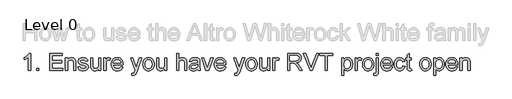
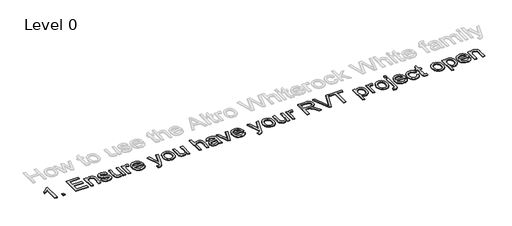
# One storey, part 3 of 6: 1 proxy.
"""IFC4 building model written with IfcOpenShell, lengths in millimetres."""

from ifc_helpers import new_model, si_unit, origin, origin_with_axes, place, context, project, spatial, polyline, outline, extrude, element, save

model = new_model("IFC4")

# Units and contexts
model_context = context("Model", 3, world=origin())
ifc_project = project(units=[si_unit("LENGTHUNIT", "METRE", prefix="MILLI")], contexts=[model_context])

# Site, building, storey
site = spatial("IfcSite", under=ifc_project)
building = spatial("IfcBuilding", under=site)
storey = spatial("IfcBuildingStorey", under=building, Name="Level 0", Elevation=0.0)

# Proxy
placement = place(None, origin())
element("IfcBuildingElementProxy", 1, Name="300mm Arial", ObjectType="300mm Arial", at=placement, inside=storey, context=model_context, shape_type="SweptSolid", body=[
    extrude(outline(polyline([(-63253.9284582, 84850.3631162), (-63339.6254279, 84850.3631162), (-63339.6254279, 85384.6301617), (-63375.4022389, 85355.6948811), (-63420.8032214, 85326.8014448), (-63468.463792, 85301.5484559), (-63511.0193673, 85283.5345177), (-63511.0193673, 85364.5449344), (-63443.7129338, 85401.1586299), (-63385.4030084, 85444.7184666), (-63339.4371289, 85491.040022), (-63309.1628332, 85535.9388738), (-63253.9284582, 85535.9388738), (-63253.9284582, 84850.3631162)])), origin_with_axes(), (0.0, 0.0, 1.0), 25.0),
    extrude(outline(polyline([(-63007.5496703, 84850.3631162), (-63007.5496703, 84936.0600859), (-62921.8527006, 84936.0600859), (-62921.8527006, 84850.3631162), (-63007.5496703, 84850.3631162)])), origin_with_axes(), (0.0, 0.0, 1.0), 25.0),
    extrude(outline(polyline([(-62482.6557309, 84850.3631162), (-62482.6557309, 85535.9388738), (-61989.8981551, 85535.9388738), (-61989.8981551, 85450.2419041), (-62396.9587612, 85450.2419041), (-62396.9587612, 85246.7116011), (-62011.3223976, 85246.7116011), (-62011.3223976, 85161.0146314), (-62396.9587612, 85161.0146314), (-62396.9587612, 84936.0600859), (-61979.1860339, 84936.0600859), (-61979.1860339, 84850.3631162), (-62482.6557309, 84850.3631162)])), origin_with_axes(), (0.0, 0.0, 1.0), 25.0),
    extrude(outline(polyline([(-61861.3527006, 84850.3631162), (-61861.3527006, 85353.8328132), (-61775.6557309, 85353.8328132), (-61775.6557309, 85283.5345177), (-61745.8835659, 85318.976575), (-61710.1276769, 85344.2923302), (-61668.388064, 85359.4817833), (-61620.6647271, 85364.5449344), (-61578.4229835, 85360.4651226), (-61539.7379989, 85348.2256872), (-61507.4761026, 85329.3539424), (-61484.5036239, 85305.3772024), (-61468.9166506, 85276.3582334), (-61458.8112707, 85242.3598018), (-61455.4218886, 85209.8468402), (-61454.2920945, 85159.5082393), (-61454.2920945, 84850.3631162), (-61539.9890642, 84850.3631162), (-61539.9890642, 85147.9592336), (-61542.4578734, 85192.2722663), (-61549.864301, 85223.7809666), (-61563.5264399, 85246.3559252), (-61584.7623834, 85263.8677327), (-61611.9820507, 85275.1029067), (-61643.5953616, 85278.8479647), (-61669.6172381, 85276.7452925), (-61693.7875076, 85270.4372758), (-61716.1061703, 85259.9239146), (-61736.5732262, 85245.205209), (-61753.671822, 85224.60739), (-61765.8851047, 85196.4566887), (-61773.2130743, 85160.753105), (-61775.6557309, 85117.4966389), (-61775.6557309, 84850.3631162), (-61861.3527006, 84850.3631162)])), origin_with_axes(), (0.0, 0.0, 1.0), 25.0),
    extrude(outline(polyline([(-61368.5951248, 85000.3328132), (-61282.8981551, 85011.0449344), (-61277.7199325, 84991.503682), (-61269.3824709, 84974.3893946), (-61257.8857705, 84959.7020722), (-61243.2298313, 84947.4417147), (-61225.3728089, 84937.7756991), (-61204.2728592, 84930.8714022), (-61152.3441779, 84925.3479647), (-61101.0431599, 84930.4111157), (-61081.1043874, 84936.7400545), (-61064.9734392, 84945.6005689), (-61043.6328852, 84967.6106304), (-61038.2977468, 84979.9337542), (-61036.5193673, 84993.1356067), (-61038.3082078, 85004.7055345), (-61043.6747295, 85014.9782914), (-61052.6189322, 85023.9538773), (-61065.1408161, 85031.6322923), (-61097.2353355, 85042.5117904), (-61153.3484392, 85056.0693189), (-61231.5552929, 85078.6861217), (-61282.3960245, 85097.9972308), (-61315.0554409, 85119.0657973), (-61338.7183493, 85146.9549723), (-61353.09184, 85179.8863762), (-61357.8830036, 85216.0816295), (-61354.0333351, 85249.2850208), (-61342.4843294, 85279.9359145), (-61324.2820922, 85306.8208281), (-61300.472729, 85328.7262791), (-61276.8098206, 85342.5139507), (-61245.99155, 85354.0838785), (-61210.3611937, 85361.9296704), (-61172.2620282, 85364.5449344), (-61116.4836783, 85360.3395899), (-61067.9862233, 85347.7235565), (-61028.987407, 85327.9312388), (-61001.7049733, 85302.1970414), (-60983.6282688, 85268.617052), (-60972.24664, 85225.2873586), (-61057.9436097, 85214.5752374), (-61068.7603414, 85241.5438395), (-61090.1636618, 85261.85921), (-61122.3627917, 85274.600776), (-61165.5669525, 85278.8479647), (-61214.7757593, 85274.789075), (-61233.2290619, 85269.7154629), (-61247.5816305, 85262.612406), (-61266.0349331, 85245.0378321), (-61272.1860339, 85224.7852279), (-61269.6335363, 85211.6042976), (-61261.9760434, 85199.8460708), (-61248.8788014, 85189.3431707), (-61230.0070566, 85180.9324817), (-61156.1938464, 85162.6884003), (-61080.476724, 85140.3017407), (-61030.4101106, 85122.3505689), (-60997.1857972, 85103.0603818), (-60971.9955746, 85076.6566768), (-60956.1156918, 85043.0557654), (-60950.8223976, 85002.173959), (-60957.0362647, 84959.9112933), (-60975.6778663, 84920.159281), (-60989.4812295, 84902.0041185), (-61006.0358504, 84886.0353167), (-61025.3417291, 84872.2528756), (-61047.3988654, 84860.6567952), (-61097.3608682, 84844.902445), (-61153.5158161, 84839.650995), (-61199.6386115, 84842.1825705), (-61239.9241376, 84849.7772971), (-61274.3723946, 84862.4351747), (-61302.9833824, 84880.1562033), (-61326.3533812, 84902.8566946), (-61345.0786712, 84930.45296), (-61359.1592524, 84962.9449995), (-61368.5951248, 85000.3328132)])), origin_with_axes(), (0.0, 0.0, 1.0), 25.0),
    extrude(outline(polyline([(-60533.0496703, 84850.3631162), (-60533.0496703, 84936.8969704), (-60564.0562399, 84894.3518561), (-60600.1678048, 84863.9624888), (-60620.1379604, 84853.3262103), (-60641.3843649, 84845.7288685), (-60663.9070182, 84841.1704634), (-60687.7059203, 84839.650995), (-60729.4455332, 84843.9191058), (-60768.2978947, 84856.7234382), (-60800.8945448, 84875.971781), (-60823.8670235, 84899.571923), (-60839.3284641, 84928.2352161), (-60849.3919998, 84962.673012), (-60853.1579799, 84995.1441295), (-60854.4133066, 85042.3444136), (-60854.4133066, 85353.8328132), (-60768.716337, 85353.8328132), (-60768.716337, 85082.682245), (-60767.419166, 85028.4521314), (-60763.5276532, 84995.3115064), (-60751.0371525, 84966.1670047), (-60729.6338322, 84944.0104884), (-60700.7403959, 84930.0135956), (-60665.7795472, 84925.3479647), (-60628.8101757, 84930.1182062), (-60594.225925, 84944.4289306), (-60565.7090867, 84966.9620449), (-60546.9419525, 84996.3994562), (-60536.5227408, 85036.7163655), (-60533.0496703, 85091.8879742), (-60533.0496703, 85353.8328132), (-60447.3527006, 85353.8328132), (-60447.3527006, 84850.3631162), (-60533.0496703, 84850.3631162)])), origin_with_axes(), (0.0, 0.0, 1.0), 25.0),
    extrude(outline(polyline([(-60329.5193673, 84850.3631162), (-60329.5193673, 85353.8328132), (-60254.5345188, 85353.8328132), (-60254.5345188, 85279.3500954), (-60226.8336428, 85322.533334), (-60201.3086665, 85347.9746219), (-60175.7000017, 85360.4023563), (-60147.7480604, 85364.5449344), (-60126.4911949, 85362.8920876), (-60105.0669525, 85357.9335471), (-60061.716337, 85338.0993851), (-60090.3377858, 85261.2733908), (-60120.4656267, 85274.4543212), (-60150.5934676, 85278.8479647), (-60176.1812103, 85274.6216981), (-60199.0490784, 85261.9428984), (-60217.5233031, 85241.7739827), (-60229.9301154, 85215.0773681), (-60240.349327, 85167.2075764), (-60243.8223976, 85114.9859855), (-60243.8223976, 84850.3631162), (-60329.5193673, 84850.3631162)])), origin_with_axes(), (0.0, 0.0, 1.0), 25.0),
    extrude(outline(polyline([(-59655.6599923, 85000.3328132), (-59571.6367915, 84989.620692), (-59584.5195818, 84955.9674752), (-59601.9110872, 84926.3103818), (-59623.8113077, 84900.6494118), (-59650.2202432, 84878.9845651), (-59680.8659064, 84861.7761282), (-59715.4763097, 84849.4843875), (-59754.0514533, 84842.1093431), (-59796.591337, 84839.650995), (-59849.7648839, 84843.8929532), (-59897.143006, 84856.6188276), (-59938.7257031, 84877.8286184), (-59974.5129752, 84907.5223255), (-60003.2913399, 84944.8735255), (-60023.8473147, 84989.0557949), (-60036.1808996, 85040.0691339), (-60040.2920945, 85097.9135423), (-60036.1390553, 85157.7193988), (-60023.6799378, 85210.4326593), (-60002.9147419, 85256.0533239), (-59973.8434676, 85294.5813927), (-59938.150345, 85325.1904422), (-59897.519604, 85347.054049), (-59851.9512446, 85360.172213), (-59801.4452669, 85364.5449344), (-59752.5659833, 85360.1826741), (-59708.3627917, 85347.0958932), (-59668.8356921, 85325.2845917), (-59633.9846845, 85294.7487696), (-59605.535843, 85256.3043893), (-59585.215242, 85210.7674131), (-59573.0228814, 85158.137841), (-59568.9587612, 85098.415673), (-59569.4608919, 85075.3176617), (-59954.5951248, 85075.3176617), (-59949.6313538, 85041.12047), (-59939.7613476, 85011.1704671), (-59924.9851062, 84985.4676528), (-59905.3026296, 84964.0120272), (-59881.8018675, 84947.0964998), (-59855.57077, 84935.0139803), (-59826.6093368, 84927.7644686), (-59794.917568, 84925.3479647), (-59749.3073644, 84929.8252966), (-59710.8943673, 84943.2572923), (-59694.3868211, 84953.5405103), (-59679.6785765, 84966.4808364), (-59655.6599923, 85000.3328132)]), holes=[polyline([(-59954.5951248, 85161.0146314), (-59654.6557309, 85161.0146314), (-59659.0598354, 85185.2633589), (-59666.2465808, 85206.2900812), (-59676.215967, 85224.0947983), (-59688.9679941, 85238.6775101), (-59712.337993, 85256.252084), (-59738.929997, 85268.8053511), (-59768.7440062, 85276.3373113), (-59801.7800207, 85278.8479647), (-59831.9130921, 85276.8446725), (-59859.5459712, 85270.8347959), (-59884.6786579, 85260.8183349), (-59907.3111523, 85246.7952895), (-59926.3031992, 85229.4142452), (-59940.5145436, 85209.3237874), (-59949.9451855, 85186.5239161), (-59954.5951248, 85161.0146314)])]), origin_with_axes(), (0.0, 0.0, 1.0), 25.0),
    extrude(outline(polyline([(-59215.4587612, 84657.5449344), (-59226.1708824, 84740.0617431), (-59182.65289, 84732.5297829), (-59159.7640997, 84734.8939815), (-59141.9803048, 84741.9865774), (-59128.1298668, 84753.3054398), (-59117.0411476, 84768.3484382), (-59093.6083824, 84831.4495272), (-59086.9133066, 84852.204262), (-59269.0193673, 85353.8328132), (-59178.6358445, 85353.8328132), (-59082.0593767, 85074.3134003), (-59048.416621, 84962.5056351), (-59014.7738654, 85061.2580026), (-58915.5193673, 85353.8328132), (-58825.8053521, 85353.8328132), (-59001.0489601, 84838.3119798), (-59027.0760671, 84769.7711418), (-59046.5754752, 84726.5042147), (-59069.8827077, 84690.8110921), (-59096.2864127, 84666.081156), (-59126.9582285, 84651.6448989), (-59163.0697934, 84646.8328132), (-59187.8834179, 84649.5108435), (-59215.4587612, 84657.5449344)])), origin_with_axes(), (0.0, 0.0, 1.0), 25.0),
    extrude(outline(polyline([(-58776.2617915, 85102.0979647), (-58771.6275437, 85167.3017259), (-58757.7248005, 85223.488057), (-58734.5535617, 85270.6569579), (-58719.4922565, 85290.8598721), (-58702.1138275, 85308.8084287), (-58669.4544111, 85333.1931499), (-58633.4056125, 85350.610808), (-58593.9674319, 85361.0614028), (-58551.1398691, 85364.5449344), (-58503.8611271, 85360.3029762), (-58461.1120223, 85347.5771018), (-58422.8925547, 85326.367311), (-58389.2027243, 85296.6736039), (-58361.7058389, 85259.5002419), (-58342.0652065, 85215.8514862), (-58330.2808271, 85165.727337), (-58326.3527006, 85109.1277942), (-58328.0892359, 85063.2560642), (-58333.2988417, 85022.5520958), (-58341.9815181, 84987.0158891), (-58354.137265, 84956.6474439), (-58369.6143971, 84930.4163463), (-58388.2612292, 84907.2921823), (-58410.0777613, 84887.2749518), (-58435.0639932, 84870.364655), (-58462.2470469, 84856.9274288), (-58490.6540441, 84847.32941), (-58520.2849849, 84841.5705987), (-58551.1398691, 84839.650995), (-58599.1090408, 84843.8772616), (-58642.2556658, 84856.5560613), (-58680.579744, 84877.6873941), (-58714.0812754, 84907.2712601), (-58741.2852512, 84944.8055286), (-58760.7166625, 84989.7880689), (-58772.3755092, 85042.2188809), (-58776.2617915, 85102.0979647)]), holes=[polyline([(-58690.5648218, 85102.2653416), (-58688.0855516, 85060.6983361), (-58680.6477408, 85024.7070734), (-58668.2513896, 84994.2915534), (-58650.8964979, 84969.4517762), (-58629.7860872, 84950.1563587), (-58606.1231788, 84936.3739176), (-58579.9077728, 84928.1044529), (-58551.1398691, 84925.3479647), (-58522.5184203, 84928.1201445), (-58496.4076248, 84936.4366839), (-58472.8074828, 84950.2975829), (-58451.7179941, 84969.7028416), (-58434.3631025, 84994.7884536), (-58421.9667512, 85025.6904126), (-58414.5289405, 85062.4087187), (-58412.0496703, 85104.9433719), (-58414.5446321, 85145.1922844), (-58422.0295176, 85180.242052), (-58434.5043267, 85210.092675), (-58451.9690595, 85234.7441531), (-58473.137006, 85254.0395707), (-58496.7214565, 85267.8220118), (-58522.7224109, 85276.0914765), (-58551.1398691, 85278.8479647), (-58579.9077728, 85276.1019375), (-58606.1231788, 85267.863856), (-58629.7860872, 85254.1337202), (-58650.8964979, 85234.91153), (-58668.2513896, 85210.1449803), (-58680.6477408, 85179.7817656), (-58688.0855516, 85143.821886), (-58690.5648218, 85102.2653416)])]), origin_with_axes(), (0.0, 0.0, 1.0), 25.0),
    extrude(outline(polyline([(-57908.5799733, 84850.3631162), (-57908.5799733, 84936.8969704), (-57939.5865429, 84894.3518561), (-57975.6981078, 84863.9624888), (-57995.6682634, 84853.3262103), (-58016.9146679, 84845.7288685), (-58039.4373212, 84841.1704634), (-58063.2362233, 84839.650995), (-58104.9758362, 84843.9191058), (-58143.8281977, 84856.7234382), (-58176.4248478, 84875.971781), (-58199.3973265, 84899.571923), (-58214.8587671, 84928.2352161), (-58224.9223029, 84962.673012), (-58228.688283, 84995.1441295), (-58229.9436097, 85042.3444136), (-58229.9436097, 85353.8328132), (-58144.24664, 85353.8328132), (-58144.24664, 85082.682245), (-58142.9494691, 85028.4521314), (-58139.0579563, 84995.3115064), (-58126.5674556, 84966.1670047), (-58105.1641352, 84944.0104884), (-58076.2706989, 84930.0135956), (-58041.3098502, 84925.3479647), (-58004.3404788, 84930.1182062), (-57969.756228, 84944.4289306), (-57941.2393897, 84966.9620449), (-57922.4722555, 84996.3994562), (-57912.0530439, 85036.7163655), (-57908.5799733, 85091.8879742), (-57908.5799733, 85353.8328132), (-57822.8830036, 85353.8328132), (-57822.8830036, 84850.3631162), (-57908.5799733, 84850.3631162)])), origin_with_axes(), (0.0, 0.0, 1.0), 25.0),
    extrude(outline(polyline([(-57437.24664, 84850.3631162), (-57437.24664, 85535.9388738), (-57351.5496703, 85535.9388738), (-57351.5496703, 85283.8692715), (-57320.0723532, 85319.164874), (-57284.7244454, 85344.3760187), (-57245.5059469, 85359.5027055), (-57202.4168578, 85364.5449344), (-57150.6555533, 85359.042419), (-57127.5052367, 85352.1642748), (-57106.1751438, 85342.5348728), (-57087.2092495, 85330.4785059), (-57071.1515287, 85316.3194668), (-57058.0019815, 85300.0577555), (-57047.7606078, 85281.6933719), (-57040.0717317, 85260.0912915), (-57034.5796774, 85234.1164898), (-57030.1860339, 85169.0487223), (-57030.1860339, 84850.3631162), (-57115.8830036, 84850.3631162), (-57115.8830036, 85160.1777469), (-57117.5881557, 85189.1130274), (-57122.703612, 85213.8220414), (-57131.2293726, 85234.3047888), (-57143.1654373, 85250.5612696), (-57158.2293578, 85262.9366987), (-57176.1386854, 85271.7762909), (-57196.8934203, 85277.0800462), (-57220.4935623, 85278.8479647), (-57256.7097378, 85274.0777232), (-57290.7081693, 85259.7669988), (-57318.8693317, 85237.2966508), (-57337.5736996, 85208.0475386), (-57348.0556776, 85169.1742549), (-57351.5496703, 85117.8313927), (-57351.5496703, 84850.3631162), (-57437.24664, 84850.3631162)])), origin_with_axes(), (0.0, 0.0, 1.0), 25.0),
    extrude(outline(polyline([(-56590.9890642, 84914.6358435), (-56631.9336369, 84879.52854), (-56674.0916921, 84856.5560613), (-56718.4256468, 84843.8772616), (-56765.8979184, 84839.650995), (-56804.0546197, 84842.1930316), (-56837.5143069, 84849.8191413), (-56866.27698, 84862.5293242), (-56890.342639, 84880.3235802), (-56909.345147, 84902.0721154), (-56922.918367, 84926.6451356), (-56931.062299, 84954.0426409), (-56933.776943, 84984.2646314), (-56929.6762091, 85019.7903771), (-56917.3740074, 85052.0522734), (-56898.3976521, 85079.6694609), (-56874.2744572, 85101.2610802), (-56845.9249958, 85117.5803274), (-56814.2698407, 85129.3803984), (-56740.1218767, 85142.2684192), (-56652.5000727, 85155.8259476), (-56591.4911949, 85171.7267526), (-56590.9890642, 85190.8077185), (-56592.4640731, 85211.5833754), (-56596.8890997, 85229.0533387), (-56604.2641441, 85243.2176084), (-56614.5892063, 85254.0761844), (-56632.4357676, 85264.9138383), (-56654.1738417, 85272.6550196), (-56679.8034286, 85277.2997284), (-56709.3245282, 85278.8479647), (-56760.3744809, 85274.7263087), (-56780.1249544, 85269.5742387), (-56796.0257593, 85262.3613406), (-56809.0916181, 85252.5227176), (-56820.3372531, 85239.4934725), (-56837.3678521, 85203.8631162), (-56923.0648218, 85214.5752374), (-56908.1892004, 85261.4407677), (-56885.9908398, 85298.2636844), (-56871.6278101, 85313.2543775), (-56854.3984511, 85326.4248468), (-56811.3407451, 85347.3051143), (-56758.6797898, 85360.2349794), (-56698.2776532, 85364.5449344), (-56640.3443258, 85360.7371101), (-56594.4202905, 85349.313637), (-56559.7941956, 85332.1365833), (-56535.7546892, 85311.0680168), (-56519.8120401, 85285.0199877), (-56509.4765169, 85252.9045461), (-56505.2920945, 85177.9196976), (-56505.2920945, 85071.3006162), (-56504.2041447, 84978.4273622), (-56500.9402953, 84922.418869), (-56494.4962849, 84885.6168745), (-56483.8678521, 84850.3631162), (-56569.5648218, 84850.3631162), (-56583.2897271, 84880.1562033), (-56590.9890642, 84914.6358435)]), holes=[polyline([(-56590.9890642, 85086.0297829), (-56648.5667157, 85071.7609027), (-56729.2423786, 85059.7516105), (-56773.7018661, 85053.1820674), (-56802.9719004, 85045.8593283), (-56822.1574769, 85036.3606896), (-56836.3635907, 85023.2634476), (-56845.1508777, 85007.5718638), (-56848.0799733, 84990.2901995), (-56846.4846623, 84976.9732754), (-56841.6987292, 84964.8070674), (-56822.554997, 84943.9267999), (-56808.3018084, 84935.7985595), (-56791.0672188, 84929.9926735), (-56747.653837, 84925.3479647), (-56701.6251911, 84930.4738821), (-56660.9526059, 84945.8516342), (-56627.9793578, 84968.5102812), (-56605.0487233, 84995.4788833), (-56594.880577, 85023.2634476), (-56591.4911949, 85061.7601333), (-56590.9890642, 85086.0297829)])]), origin_with_axes(), (0.0, 0.0, 1.0), 25.0),
    extrude(outline(polyline([(-56263.9346135, 84850.3631162), (-56441.0193673, 85353.8328132), (-56350.3010907, 85353.8328132), (-56243.0125017, 85052.2196503), (-56210.7087612, 84950.7892526), (-56179.0745282, 85046.5288359), (-56071.1164316, 85353.8328132), (-55980.3981551, 85353.8328132), (-56155.3070093, 84850.3631162), (-56263.9346135, 84850.3631162)])), origin_with_axes(), (0.0, 0.0, 1.0), 25.0),
    extrude(outline(polyline([(-55552.917568, 85000.3328132), (-55468.8943673, 84989.620692), (-55481.7771576, 84955.9674752), (-55499.1686629, 84926.3103818), (-55521.0688834, 84900.6494118), (-55547.477819, 84878.9845651), (-55578.1234821, 84861.7761282), (-55612.7338855, 84849.4843875), (-55651.309029, 84842.1093431), (-55693.8489127, 84839.650995), (-55747.0224597, 84843.8929532), (-55794.4005817, 84856.6188276), (-55835.9832788, 84877.8286184), (-55871.770551, 84907.5223255), (-55900.5489157, 84944.8735255), (-55921.1048905, 84989.0557949), (-55933.4384753, 85040.0691339), (-55937.5496703, 85097.9135423), (-55933.3966311, 85157.7193988), (-55920.9375136, 85210.4326593), (-55900.1723177, 85256.0533239), (-55871.1010434, 85294.5813927), (-55835.4079208, 85325.1904422), (-55794.7771798, 85347.054049), (-55749.2088204, 85360.172213), (-55698.7028426, 85364.5449344), (-55649.8235591, 85360.1826741), (-55605.6203675, 85347.0958932), (-55566.0932679, 85325.2845917), (-55531.2422602, 85294.7487696), (-55502.7934188, 85256.3043893), (-55482.4728178, 85210.7674131), (-55470.2804572, 85158.137841), (-55466.216337, 85098.415673), (-55466.7184676, 85075.3176617), (-55851.8527006, 85075.3176617), (-55846.8889296, 85041.12047), (-55837.0189234, 85011.1704671), (-55822.2426819, 84985.4676528), (-55802.5602053, 84964.0120272), (-55779.0594433, 84947.0964998), (-55752.8283457, 84935.0139803), (-55723.8669125, 84927.7644686), (-55692.1751438, 84925.3479647), (-55646.5649402, 84929.8252966), (-55608.151943, 84943.2572923), (-55591.6443968, 84953.5405103), (-55576.9361523, 84966.4808364), (-55552.917568, 85000.3328132)]), holes=[polyline([(-55851.8527006, 85161.0146314), (-55551.9133066, 85161.0146314), (-55556.3174112, 85185.2633589), (-55563.5041566, 85206.2900812), (-55573.4735428, 85224.0947983), (-55586.2255699, 85238.6775101), (-55609.5955687, 85256.252084), (-55636.1875727, 85268.8053511), (-55666.001582, 85276.3373113), (-55699.0375964, 85278.8479647), (-55729.1706679, 85276.8446725), (-55756.8035469, 85270.8347959), (-55781.9362337, 85260.8183349), (-55804.568728, 85246.7952895), (-55823.560775, 85229.4142452), (-55837.7721194, 85209.3237874), (-55847.2027613, 85186.5239161), (-55851.8527006, 85161.0146314)])]), origin_with_axes(), (0.0, 0.0, 1.0), 25.0),
    extrude(outline(polyline([(-55112.716337, 84657.5449344), (-55123.4284582, 84740.0617431), (-55079.9104657, 84732.5297829), (-55057.0216755, 84734.8939815), (-55039.2378805, 84741.9865774), (-55025.3874425, 84753.3054398), (-55014.2987233, 84768.3484382), (-54990.8659582, 84831.4495272), (-54984.1708824, 84852.204262), (-55166.276943, 85353.8328132), (-55075.8934203, 85353.8328132), (-54979.3169525, 85074.3134003), (-54945.6741968, 84962.5056351), (-54912.0314411, 85061.2580026), (-54812.776943, 85353.8328132), (-54723.0629279, 85353.8328132), (-54898.3065358, 84838.3119798), (-54924.3336428, 84769.7711418), (-54943.833051, 84726.5042147), (-54967.1402834, 84690.8110921), (-54993.5439885, 84666.081156), (-55024.2158043, 84651.6448989), (-55060.3273691, 84646.8328132), (-55085.1409937, 84649.5108435), (-55112.716337, 84657.5449344)])), origin_with_axes(), (0.0, 0.0, 1.0), 25.0),
    extrude(outline(polyline([(-54673.5193673, 85102.0979647), (-54668.8851195, 85167.3017259), (-54654.9823762, 85223.488057), (-54631.8111375, 85270.6569579), (-54616.7498323, 85290.8598721), (-54599.3714032, 85308.8084287), (-54566.7119868, 85333.1931499), (-54530.6631883, 85350.610808), (-54491.2250076, 85361.0614028), (-54448.3974449, 85364.5449344), (-54401.1187029, 85360.3029762), (-54358.3695981, 85347.5771018), (-54320.1501305, 85326.367311), (-54286.4603, 85296.6736039), (-54258.9634147, 85259.5002419), (-54239.3227823, 85215.8514862), (-54227.5384028, 85165.727337), (-54223.6102763, 85109.1277942), (-54225.3468116, 85063.2560642), (-54230.5564174, 85022.5520958), (-54239.2390938, 84987.0158891), (-54251.3948407, 84956.6474439), (-54266.8719729, 84930.4163463), (-54285.518805, 84907.2921823), (-54307.335337, 84887.2749518), (-54332.321569, 84870.364655), (-54359.5046226, 84856.9274288), (-54387.9116199, 84847.32941), (-54417.5425606, 84841.5705987), (-54448.3974449, 84839.650995), (-54496.3666166, 84843.8772616), (-54539.5132415, 84856.5560613), (-54577.8373197, 84877.6873941), (-54611.3388512, 84907.2712601), (-54638.5428269, 84944.8055286), (-54657.9742382, 84989.7880689), (-54669.633085, 85042.2188809), (-54673.5193673, 85102.0979647)]), holes=[polyline([(-54587.8223976, 85102.2653416), (-54585.3431273, 85060.6983361), (-54577.9053166, 85024.7070734), (-54565.5089654, 84994.2915534), (-54548.1540737, 84969.4517762), (-54527.0436629, 84950.1563587), (-54503.3807546, 84936.3739176), (-54477.1653486, 84928.1044529), (-54448.3974449, 84925.3479647), (-54419.775996, 84928.1201445), (-54393.6652006, 84936.4366839), (-54370.0650585, 84950.2975829), (-54348.9755699, 84969.7028416), (-54331.6206782, 84994.7884536), (-54319.224327, 85025.6904126), (-54311.7865163, 85062.4087187), (-54309.307246, 85104.9433719), (-54311.8022079, 85145.1922844), (-54319.2870933, 85180.242052), (-54331.7619025, 85210.092675), (-54349.2266352, 85234.7441531), (-54370.3945818, 85254.0395707), (-54393.9790323, 85267.8220118), (-54419.9799866, 85276.0914765), (-54448.3974449, 85278.8479647), (-54477.1653486, 85276.1019375), (-54503.3807546, 85267.863856), (-54527.0436629, 85254.1337202), (-54548.1540737, 85234.91153), (-54565.5089654, 85210.1449803), (-54577.9053166, 85179.7817656), (-54585.3431273, 85143.821886), (-54587.8223976, 85102.2653416)])]), origin_with_axes(), (0.0, 0.0, 1.0), 25.0),
    extrude(outline(polyline([(-53805.8375491, 84850.3631162), (-53805.8375491, 84936.8969704), (-53836.8441187, 84894.3518561), (-53872.9556835, 84863.9624888), (-53892.9258392, 84853.3262103), (-53914.1722437, 84845.7288685), (-53936.694897, 84841.1704634), (-53960.4937991, 84839.650995), (-54002.233412, 84843.9191058), (-54041.0857735, 84856.7234382), (-54073.6824236, 84875.971781), (-54096.6549023, 84899.571923), (-54112.1163429, 84928.2352161), (-54122.1798786, 84962.673012), (-54125.9458587, 84995.1441295), (-54127.2011854, 85042.3444136), (-54127.2011854, 85353.8328132), (-54041.5042157, 85353.8328132), (-54041.5042157, 85082.682245), (-54040.2070448, 85028.4521314), (-54036.315532, 84995.3115064), (-54023.8250313, 84966.1670047), (-54002.421711, 84944.0104884), (-53973.5282747, 84930.0135956), (-53938.567426, 84925.3479647), (-53901.5980545, 84930.1182062), (-53867.0138038, 84944.4289306), (-53838.4969655, 84966.9620449), (-53819.7298313, 84996.3994562), (-53809.3106196, 85036.7163655), (-53805.8375491, 85091.8879742), (-53805.8375491, 85353.8328132), (-53720.1405794, 85353.8328132), (-53720.1405794, 84850.3631162), (-53805.8375491, 84850.3631162)])), origin_with_axes(), (0.0, 0.0, 1.0), 25.0),
    extrude(outline(polyline([(-53602.307246, 84850.3631162), (-53602.307246, 85353.8328132), (-53527.3223976, 85353.8328132), (-53527.3223976, 85279.3500954), (-53499.6215216, 85322.533334), (-53474.0965453, 85347.9746219), (-53448.4878805, 85360.4023563), (-53420.5359392, 85364.5449344), (-53399.2790737, 85362.8920876), (-53377.8548313, 85357.9335471), (-53334.5042157, 85338.0993851), (-53363.1256646, 85261.2733908), (-53393.2535055, 85274.4543212), (-53423.3813464, 85278.8479647), (-53448.9690891, 85274.6216981), (-53471.8369572, 85261.9428984), (-53490.3111819, 85241.7739827), (-53502.7179941, 85215.0773681), (-53513.1372058, 85167.2075764), (-53516.6102763, 85114.9859855), (-53516.6102763, 84850.3631162), (-53602.307246, 84850.3631162)])), origin_with_axes(), (0.0, 0.0, 1.0), 25.0),
    extrude(outline(polyline([(-53002.4284582, 84850.3631162), (-53002.4284582, 85535.9388738), (-52707.0082404, 85535.9388738), (-52627.6088263, 85531.3150871), (-52596.0216681, 85525.5353537), (-52569.8428758, 85517.443727), (-52547.5503657, 85506.4177741), (-52527.6220543, 85491.8350622), (-52510.0579415, 85473.6955913), (-52494.8580273, 85451.9993615), (-52482.5924393, 85427.9127803), (-52473.831305, 85402.6022556), (-52468.5746244, 85376.0677874), (-52466.8223976, 85348.3093757), (-52469.7253406, 85313.0974616), (-52478.4341696, 85280.772799), (-52492.9488846, 85251.3353878), (-52513.2694856, 85224.7852279), (-52539.6574991, 85201.9696651), (-52572.3744513, 85183.7360447), (-52611.4203423, 85170.0843668), (-52656.7951722, 85161.0146314), (-52628.5503213, 85142.5613288), (-52608.088496, 85124.3590916), (-52572.9811925, 85082.7240892), (-52538.6270851, 85036.1514685), (-52424.3086665, 84850.3631162), (-52523.8979184, 84850.3631162), (-52613.1098029, 84992.4660992), (-52677.549907, 85086.5319136), (-52701.505725, 85113.960802), (-52722.8253568, 85130.9704789), (-52743.0151947, 85140.9503262), (-52763.5816305, 85147.2897261), (-52813.292568, 85150.3025101), (-52916.7314885, 85150.3025101), (-52916.7314885, 84850.3631162), (-53002.4284582, 84850.3631162)]), holes=[polyline([(-52916.7314885, 85235.9994798), (-52724.917568, 85235.9994798), (-52669.8296478, 85239.033186), (-52627.0857735, 85248.1343047), (-52594.9075656, 85263.9095769), (-52571.5166447, 85286.965744), (-52557.2686866, 85314.854919), (-52552.5193673, 85345.1292147), (-52554.7841858, 85367.0451267), (-52561.5786416, 85386.931594), (-52572.9027346, 85404.7886163), (-52588.7564648, 85420.6161939), (-52609.5059691, 85433.5774421), (-52635.5173845, 85442.8354765), (-52666.7907111, 85448.3902972), (-52703.3259487, 85450.2419041), (-52916.7314885, 85450.2419041), (-52916.7314885, 85235.9994798)])]), origin_with_axes(), (0.0, 0.0, 1.0), 25.0),
    extrude(outline(polyline([(-52114.3266589, 84850.3631162), (-52387.150996, 85535.9388738), (-52295.4284582, 85535.9388738), (-52112.8202669, 85042.0096598), (-52075.8299733, 84930.7040253), (-52039.3418104, 85042.0096598), (-51856.2314885, 85535.9388738), (-51764.5089506, 85535.9388738), (-52025.784282, 84850.3631162), (-52114.3266589, 84850.3631162)])), origin_with_axes(), (0.0, 0.0, 1.0), 25.0),
    extrude(outline(polyline([(-51513.4436097, 84850.3631162), (-51513.4436097, 85450.2419041), (-51738.3981551, 85450.2419041), (-51738.3981551, 85535.9388738), (-51202.7920945, 85535.9388738), (-51202.7920945, 85450.2419041), (-51427.74664, 85450.2419041), (-51427.74664, 84850.3631162), (-51513.4436097, 84850.3631162)])), origin_with_axes(), (0.0, 0.0, 1.0), 25.0),
    extrude(outline(polyline([(-50849.2920945, 84657.5449344), (-50849.2920945, 85353.8328132), (-50763.5951248, 85353.8328132), (-50763.5951248, 85269.8096124), (-50735.6431835, 85311.2563158), (-50704.3437044, 85340.8611039), (-50686.9783516, 85351.2227797), (-50667.8555415, 85358.6239768), (-50624.3375491, 85364.5449344), (-50594.4503124, 85362.4736453), (-50566.3832995, 85356.2597781), (-50540.1365104, 85345.9033328), (-50515.7099449, 85331.4043094), (-50493.637117, 85313.1393058), (-50474.4515405, 85291.4849202), (-50458.1532155, 85266.4411524), (-50444.7421419, 85238.0080026), (-50434.2706249, 85207.1583488), (-50426.79097, 85174.8650693), (-50420.807246, 85105.9476333), (-50422.4967066, 85068.3349069), (-50427.5650881, 85032.6574758), (-50436.0123908, 84998.9153401), (-50447.8386144, 84967.1084997), (-50462.8816128, 84938.0686086), (-50480.9792394, 84912.6273208), (-50502.1314944, 84890.7846361), (-50526.3383777, 84872.5405547), (-50552.4125594, 84858.1513723), (-50579.1667098, 84847.8733849), (-50606.6008288, 84841.7065925), (-50634.7149165, 84839.650995), (-50674.1112529, 84845.1535104), (-50709.2813227, 84861.6610565), (-50739.3882415, 84886.5792916), (-50763.5951248, 84917.3138738), (-50763.5951248, 84657.5449344), (-50849.2920945, 84657.5449344)]), holes=[polyline([(-50763.5951248, 85098.0809192), (-50761.278001, 85056.7806707), (-50754.3266293, 85021.2549249), (-50742.74101, 84991.503682), (-50726.5211428, 84967.526942), (-50706.995582, 84949.0736394), (-50685.4928817, 84935.892709), (-50662.0130418, 84927.9841508), (-50636.5560623, 84925.3479647), (-50610.7329459, 84928.0783003), (-50586.8242027, 84936.269307), (-50564.8298327, 84949.9209849), (-50544.749836, 84969.033334), (-50528.0173771, 84993.8783417), (-50516.0656208, 85024.7279955), (-50508.894567, 85061.5822953), (-50506.5042157, 85104.4412412), (-50508.8370312, 85145.3858139), (-50515.8354776, 85180.8487933), (-50527.4995549, 85210.8301794), (-50543.8292631, 85235.3299723), (-50563.4018986, 85254.369094), (-50584.7947579, 85267.9684666), (-50608.0078409, 85276.1280902), (-50633.0411476, 85278.8479647), (-50657.9959963, 85275.9554827), (-50681.4758362, 85267.2780369), (-50703.4806673, 85252.8156272), (-50724.0104894, 85232.5682535), (-50741.3287674, 85206.8079034), (-50753.698966, 85175.8065644), (-50761.1210851, 85139.5642363), (-50763.5951248, 85098.0809192)])]), origin_with_axes(), (0.0, 0.0, 1.0), 25.0),
    extrude(outline(polyline([(-50324.3981551, 84850.3631162), (-50324.3981551, 85353.8328132), (-50249.4133066, 85353.8328132), (-50249.4133066, 85279.3500954), (-50221.7124307, 85322.533334), (-50196.1874544, 85347.9746219), (-50170.5787896, 85360.4023563), (-50142.6268483, 85364.5449344), (-50121.3699828, 85362.8920876), (-50099.9457404, 85357.9335471), (-50056.5951248, 85338.0993851), (-50085.2165737, 85261.2733908), (-50115.3444146, 85274.4543212), (-50145.4722555, 85278.8479647), (-50171.0599982, 85274.6216981), (-50193.9278663, 85261.9428984), (-50212.402091, 85241.7739827), (-50224.8089032, 85215.0773681), (-50235.2281149, 85167.2075764), (-50238.7011854, 85114.9859855), (-50238.7011854, 84850.3631162), (-50324.3981551, 84850.3631162)])), origin_with_axes(), (0.0, 0.0, 1.0), 25.0),
    extrude(outline(polyline([(-50024.4587612, 85102.0979647), (-50019.8245134, 85167.3017259), (-50005.9217702, 85223.488057), (-49982.7505314, 85270.6569579), (-49967.6892262, 85290.8598721), (-49950.3107972, 85308.8084287), (-49917.6513807, 85333.1931499), (-49881.6025822, 85350.610808), (-49842.1644016, 85361.0614028), (-49799.3368388, 85364.5449344), (-49752.0580968, 85360.3029762), (-49709.308992, 85347.5771018), (-49671.0895244, 85326.367311), (-49637.399694, 85296.6736039), (-49609.9028086, 85259.5002419), (-49590.2621762, 85215.8514862), (-49578.4777968, 85165.727337), (-49574.5496703, 85109.1277942), (-49576.2862056, 85063.2560642), (-49581.4958114, 85022.5520958), (-49590.1784878, 84987.0158891), (-49602.3342347, 84956.6474439), (-49617.8113668, 84930.4163463), (-49636.4581989, 84907.2921823), (-49658.2747309, 84887.2749518), (-49683.2609629, 84870.364655), (-49710.4440166, 84856.9274288), (-49738.8510138, 84847.32941), (-49768.4819546, 84841.5705987), (-49799.3368388, 84839.650995), (-49847.3060105, 84843.8772616), (-49890.4526355, 84856.5560613), (-49928.7767137, 84877.6873941), (-49962.2782451, 84907.2712601), (-49989.4822209, 84944.8055286), (-50008.9136322, 84989.7880689), (-50020.5724789, 85042.2188809), (-50024.4587612, 85102.0979647)]), holes=[polyline([(-49938.7617915, 85102.2653416), (-49936.2825213, 85060.6983361), (-49928.8447105, 85024.7070734), (-49916.4483593, 84994.2915534), (-49899.0934676, 84969.4517762), (-49877.9830569, 84950.1563587), (-49854.3201485, 84936.3739176), (-49828.1047425, 84928.1044529), (-49799.3368388, 84925.3479647), (-49770.71539, 84928.1201445), (-49744.6045945, 84936.4366839), (-49721.0044525, 84950.2975829), (-49699.9149638, 84969.7028416), (-49682.5600722, 84994.7884536), (-49670.1637209, 85025.6904126), (-49662.7259102, 85062.4087187), (-49660.24664, 85104.9433719), (-49662.7416018, 85145.1922844), (-49670.2264873, 85180.242052), (-49682.7012964, 85210.092675), (-49700.1660292, 85234.7441531), (-49721.3339757, 85254.0395707), (-49744.9184262, 85267.8220118), (-49770.9193806, 85276.0914765), (-49799.3368388, 85278.8479647), (-49828.1047425, 85276.1019375), (-49854.3201485, 85267.863856), (-49877.9830569, 85254.1337202), (-49899.0934676, 85234.91153), (-49916.4483593, 85210.1449803), (-49928.8447105, 85179.7817656), (-49936.2825213, 85143.821886), (-49938.7617915, 85102.2653416)])]), origin_with_axes(), (0.0, 0.0, 1.0), 25.0),
    extrude(outline(polyline([(-49586.098676, 84657.2101806), (-49568.0219714, 84738.7227279), (-49528.6884013, 84732.5297829), (-49506.3645081, 84736.7769716), (-49490.610158, 84749.5185376), (-49485.1547173, 84761.1983065), (-49481.257974, 84779.2488584), (-49478.1405794, 84834.4623113), (-49478.1405794, 85353.8328132), (-49392.4436097, 85353.8328132), (-49392.4436097, 84823.4154363), (-49393.9604628, 84780.5669514), (-49398.5110221, 84744.7482961), (-49406.0952876, 84715.9594704), (-49416.7132593, 84694.2004742), (-49434.6644312, 84673.4771225), (-49457.7205983, 84658.6747284), (-49485.8817607, 84649.793292), (-49519.1479184, 84646.8328132), (-49553.2091163, 84649.427155), (-49586.098676, 84657.2101806)])), origin_with_axes(), (0.0, 0.0, 1.0), 25.0),
    extrude(outline(polyline([(-49478.1405794, 85450.2419041), (-49478.1405794, 85535.9388738), (-49392.4436097, 85535.9388738), (-49392.4436097, 85450.2419041), (-49478.1405794, 85450.2419041)])), origin_with_axes(), (0.0, 0.0, 1.0), 25.0),
    extrude(outline(polyline([(-48911.4024165, 85000.3328132), (-48827.3792157, 84989.620692), (-48840.262006, 84955.9674752), (-48857.6535114, 84926.3103818), (-48879.5537319, 84900.6494118), (-48905.9626674, 84878.9845651), (-48936.6083306, 84861.7761282), (-48971.218734, 84849.4843875), (-49009.7938775, 84842.1093431), (-49052.3337612, 84839.650995), (-49105.5073082, 84843.8929532), (-49152.8854302, 84856.6188276), (-49194.4681273, 84877.8286184), (-49230.2553995, 84907.5223255), (-49259.0337642, 84944.8735255), (-49279.5897389, 84989.0557949), (-49291.9233238, 85040.0691339), (-49296.0345188, 85097.9135423), (-49291.8814796, 85157.7193988), (-49279.422362, 85210.4326593), (-49258.6571661, 85256.0533239), (-49229.5858919, 85294.5813927), (-49193.8927692, 85325.1904422), (-49153.2620282, 85347.054049), (-49107.6936689, 85360.172213), (-49057.1876911, 85364.5449344), (-49008.3084076, 85360.1826741), (-48964.105216, 85347.0958932), (-48924.5781164, 85325.2845917), (-48889.7271087, 85294.7487696), (-48861.2782673, 85256.3043893), (-48840.9576663, 85210.7674131), (-48828.7653056, 85158.137841), (-48824.7011854, 85098.415673), (-48825.2033161, 85075.3176617), (-49210.3375491, 85075.3176617), (-49205.3737781, 85041.12047), (-49195.5037718, 85011.1704671), (-49180.7275304, 84985.4676528), (-49161.0450538, 84964.0120272), (-49137.5442918, 84947.0964998), (-49111.3131942, 84935.0139803), (-49082.351761, 84927.7644686), (-49050.6599923, 84925.3479647), (-49005.0497887, 84929.8252966), (-48966.6367915, 84943.2572923), (-48950.1292453, 84953.5405103), (-48935.4210008, 84966.4808364), (-48911.4024165, 85000.3328132)]), holes=[polyline([(-49210.3375491, 85161.0146314), (-48910.3981551, 85161.0146314), (-48914.8022597, 85185.2633589), (-48921.989005, 85206.2900812), (-48931.9583913, 85224.0947983), (-48944.7104184, 85238.6775101), (-48968.0804172, 85256.252084), (-48994.6724212, 85268.8053511), (-49024.4864305, 85276.3373113), (-49057.5224449, 85278.8479647), (-49087.6555163, 85276.8446725), (-49115.2883954, 85270.8347959), (-49140.4210822, 85260.8183349), (-49163.0535765, 85246.7952895), (-49182.0456235, 85229.4142452), (-49196.2569679, 85209.3237874), (-49205.6876097, 85186.5239161), (-49210.3375491, 85161.0146314)])]), origin_with_axes(), (0.0, 0.0, 1.0), 25.0),
    extrude(outline(polyline([(-48417.6405794, 85032.4691768), (-48331.9436097, 85021.7570556), (-48341.2644105, 84981.3198441), (-48355.8366613, 84945.5378025), (-48375.6603622, 84914.4109308), (-48400.7355131, 84887.9392289), (-48430.0055474, 84866.8131266), (-48462.4138985, 84851.7230535), (-48497.9605664, 84842.6690096), (-48536.645551, 84839.650995), (-48584.7088722, 84843.86157), (-48627.8031918, 84856.4932949), (-48665.92851, 84877.5461699), (-48699.0848265, 84907.0201948), (-48725.9226654, 84944.3609337), (-48745.0925503, 84989.0139507), (-48756.5944812, 85040.9792458), (-48760.4284582, 85100.2568189), (-48758.7913029, 85139.6583858), (-48753.8798372, 85176.5179162), (-48745.694061, 85210.8354099), (-48734.2339743, 85242.6108672), (-48719.4211191, 85271.2061634), (-48701.1770377, 85295.9831742), (-48679.5017299, 85316.9418996), (-48654.3951959, 85334.0823397), (-48626.99246, 85347.4097249), (-48598.4285469, 85356.9292857), (-48568.7034567, 85362.6410222), (-48537.8171892, 85364.5449344), (-48499.7964817, 85361.9296704), (-48465.4057605, 85354.0838785), (-48434.6450257, 85341.0075587), (-48407.5142773, 85322.7007109), (-48384.4738017, 85299.5817774), (-48365.9838855, 85272.0692005), (-48352.0445285, 85240.1629801), (-48342.6557309, 85203.8631162), (-48428.3527006, 85193.150995), (-48443.8978296, 85230.5388087), (-48454.918552, 85245.2627448), (-48468.1047129, 85257.3400338), (-48499.6343353, 85273.470982), (-48537.1476816, 85278.8479647), (-48566.2660307, 85276.2013176), (-48592.5285114, 85268.2613761), (-48615.9351239, 85255.0281405), (-48636.4858682, 85236.5016105), (-48653.2183271, 85212.252883), (-48665.1700834, 85181.8530547), (-48672.3411372, 85145.3021254), (-48674.7314885, 85102.6000954), (-48672.3934425, 85059.2547104), (-48665.3793045, 85022.2801084), (-48653.6890746, 84991.6762894), (-48637.3227527, 84967.4432535), (-48617.1799896, 84949.0265647), (-48594.1604361, 84935.8717869), (-48568.2640923, 84927.9789202), (-48539.4909582, 84925.3479647), (-48516.3040278, 84926.9903505), (-48495.1151592, 84931.9175078), (-48475.9243522, 84940.1294366), (-48458.7316068, 84951.626137), (-48444.0181318, 84966.5331417), (-48432.2651355, 84984.9759832), (-48423.472618, 85006.9546615), (-48417.6405794, 85032.4691768)])), origin_with_axes(), (0.0, 0.0, 1.0), 25.0),
    extrude(outline(polyline([(-48074.8527006, 84921.8330499), (-48064.1405794, 84847.8524628), (-48098.0762446, 84841.7013619), (-48128.2459298, 84839.650995), (-48169.3788014, 84843.207754), (-48200.0506173, 84853.878031), (-48221.725925, 84870.3228108), (-48235.8692726, 84891.2030783), (-48243.6522981, 84927.0635779), (-48246.24664, 84988.4490537), (-48246.24664, 85268.1358435), (-48310.5193673, 85268.1358435), (-48310.5193673, 85353.8328132), (-48246.24664, 85353.8328132), (-48246.24664, 85476.1853226), (-48160.5496703, 85526.5657677), (-48160.5496703, 85353.8328132), (-48074.8527006, 85353.8328132), (-48074.8527006, 85268.1358435), (-48160.5496703, 85268.1358435), (-48160.5496703, 84990.9597071), (-48159.4198762, 84962.7567005), (-48156.0304941, 84946.7722071), (-48150.1095365, 84937.9221538), (-48141.3850159, 84931.1224675), (-48129.0200479, 84926.7915904), (-48112.1777479, 84925.3479647), (-48074.8527006, 84921.8330499)])), origin_with_axes(), (0.0, 0.0, 1.0), 25.0),
    extrude(outline(polyline([(-47742.776943, 85102.0979647), (-47738.1426953, 85167.3017259), (-47724.239952, 85223.488057), (-47701.0687133, 85270.6569579), (-47686.0074081, 85290.8598721), (-47668.628979, 85308.8084287), (-47635.9695626, 85333.1931499), (-47599.920764, 85350.610808), (-47560.4825834, 85361.0614028), (-47517.6550207, 85364.5449344), (-47470.3762787, 85360.3029762), (-47427.6271738, 85347.5771018), (-47389.4077062, 85326.367311), (-47355.7178758, 85296.6736039), (-47328.2209904, 85259.5002419), (-47308.580358, 85215.8514862), (-47296.7959786, 85165.727337), (-47292.8678521, 85109.1277942), (-47294.6043874, 85063.2560642), (-47299.8139932, 85022.5520958), (-47308.4966696, 84987.0158891), (-47320.6524165, 84956.6474439), (-47336.1295487, 84930.4163463), (-47354.7763807, 84907.2921823), (-47376.5929128, 84887.2749518), (-47401.5791447, 84870.364655), (-47428.7621984, 84856.9274288), (-47457.1691956, 84847.32941), (-47486.8001364, 84841.5705987), (-47517.6550207, 84839.650995), (-47565.6241924, 84843.8772616), (-47608.7708173, 84856.5560613), (-47647.0948955, 84877.6873941), (-47680.5964269, 84907.2712601), (-47707.8004027, 84944.8055286), (-47727.231814, 84989.7880689), (-47738.8906608, 85042.2188809), (-47742.776943, 85102.0979647)]), holes=[polyline([(-47657.0799733, 85102.2653416), (-47654.6007031, 85060.6983361), (-47647.1628923, 85024.7070734), (-47634.7665411, 84994.2915534), (-47617.4116495, 84969.4517762), (-47596.3012387, 84950.1563587), (-47572.6383303, 84936.3739176), (-47546.4229243, 84928.1044529), (-47517.6550207, 84925.3479647), (-47489.0335718, 84928.1201445), (-47462.9227763, 84936.4366839), (-47439.3226343, 84950.2975829), (-47418.2331457, 84969.7028416), (-47400.878254, 84994.7884536), (-47388.4819028, 85025.6904126), (-47381.044092, 85062.4087187), (-47378.5648218, 85104.9433719), (-47381.0597836, 85145.1922844), (-47388.5446691, 85180.242052), (-47401.0194782, 85210.092675), (-47418.484211, 85234.7441531), (-47439.6521576, 85254.0395707), (-47463.236608, 85267.8220118), (-47489.2375624, 85276.0914765), (-47517.6550207, 85278.8479647), (-47546.4229243, 85276.1019375), (-47572.6383303, 85267.863856), (-47596.3012387, 85254.1337202), (-47617.4116495, 85234.91153), (-47634.7665411, 85210.1449803), (-47647.1628923, 85179.7817656), (-47654.6007031, 85143.821886), (-47657.0799733, 85102.2653416)])]), origin_with_axes(), (0.0, 0.0, 1.0), 25.0),
    extrude(outline(polyline([(-47196.4587612, 84657.5449344), (-47196.4587612, 85353.8328132), (-47110.7617915, 85353.8328132), (-47110.7617915, 85269.8096124), (-47082.8098502, 85311.2563158), (-47051.510371, 85340.8611039), (-47034.1450183, 85351.2227797), (-47015.0222082, 85358.6239768), (-46971.5042157, 85364.5449344), (-46941.6169791, 85362.4736453), (-46913.5499662, 85356.2597781), (-46887.303177, 85345.9033328), (-46862.8766116, 85331.4043094), (-46840.8037837, 85313.1393058), (-46821.6182072, 85291.4849202), (-46805.3198822, 85266.4411524), (-46791.9088085, 85238.0080026), (-46781.4372916, 85207.1583488), (-46773.9576367, 85174.8650693), (-46767.9739127, 85105.9476333), (-46769.6633732, 85068.3349069), (-46774.7317548, 85032.6574758), (-46783.1790574, 84998.9153401), (-46795.0052811, 84967.1084997), (-46810.0482794, 84938.0686086), (-46828.1459061, 84912.6273208), (-46849.2981611, 84890.7846361), (-46873.5050443, 84872.5405547), (-46899.5792261, 84858.1513723), (-46926.3333765, 84847.8733849), (-46953.7674955, 84841.7065925), (-46981.8815832, 84839.650995), (-47021.2779196, 84845.1535104), (-47056.4479894, 84861.6610565), (-47086.5549082, 84886.5792916), (-47110.7617915, 84917.3138738), (-47110.7617915, 84657.5449344), (-47196.4587612, 84657.5449344)]), holes=[polyline([(-47110.7617915, 85098.0809192), (-47108.4446676, 85056.7806707), (-47101.493296, 85021.2549249), (-47089.9076766, 84991.503682), (-47073.6878095, 84967.526942), (-47054.1622487, 84949.0736394), (-47032.6595484, 84935.892709), (-47009.1797085, 84927.9841508), (-46983.722729, 84925.3479647), (-46957.8996126, 84928.0783003), (-46933.9908694, 84936.269307), (-46911.9964994, 84949.9209849), (-46891.9165027, 84969.033334), (-46875.1840438, 84993.8783417), (-46863.2322875, 85024.7279955), (-46856.0612337, 85061.5822953), (-46853.6708824, 85104.4412412), (-46856.0036979, 85145.3858139), (-46863.0021442, 85180.8487933), (-46874.6662215, 85210.8301794), (-46890.9959298, 85235.3299723), (-46910.5685653, 85254.369094), (-46931.9614245, 85267.9684666), (-46955.1745075, 85276.1280902), (-46980.2078142, 85278.8479647), (-47005.162663, 85275.9554827), (-47028.6425029, 85267.2780369), (-47050.6473339, 85252.8156272), (-47071.1771561, 85232.5682535), (-47088.4954341, 85206.8079034), (-47100.8656326, 85175.8065644), (-47108.2877518, 85139.5642363), (-47110.7617915, 85098.0809192)])]), origin_with_axes(), (0.0, 0.0, 1.0), 25.0),
    extrude(outline(polyline([(-46319.0690832, 85000.3328132), (-46235.0458824, 84989.620692), (-46247.9286727, 84955.9674752), (-46265.3201781, 84926.3103818), (-46287.2203986, 84900.6494118), (-46313.6293341, 84878.9845651), (-46344.2749973, 84861.7761282), (-46378.8854006, 84849.4843875), (-46417.4605442, 84842.1093431), (-46460.0004279, 84839.650995), (-46513.1739749, 84843.8929532), (-46560.5520969, 84856.6188276), (-46602.134794, 84877.8286184), (-46637.9220661, 84907.5223255), (-46666.7004308, 84944.8735255), (-46687.2564056, 84989.0557949), (-46699.5899905, 85040.0691339), (-46703.7011854, 85097.9135423), (-46699.5481463, 85157.7193988), (-46687.0890287, 85210.4326593), (-46666.3238328, 85256.0533239), (-46637.2525585, 85294.5813927), (-46601.5594359, 85325.1904422), (-46560.9286949, 85347.054049), (-46515.3603355, 85360.172213), (-46464.8543578, 85364.5449344), (-46415.9750742, 85360.1826741), (-46371.7718826, 85347.0958932), (-46332.244783, 85325.2845917), (-46297.3937754, 85294.7487696), (-46268.944934, 85256.3043893), (-46248.6243329, 85210.7674131), (-46236.4319723, 85158.137841), (-46232.3678521, 85098.415673), (-46232.8699828, 85075.3176617), (-46618.0042157, 85075.3176617), (-46613.0404447, 85041.12047), (-46603.1704385, 85011.1704671), (-46588.3941971, 84985.4676528), (-46568.7117205, 84964.0120272), (-46545.2109585, 84947.0964998), (-46518.9798609, 84935.0139803), (-46490.0184277, 84927.7644686), (-46458.3266589, 84925.3479647), (-46412.7164553, 84929.8252966), (-46374.3034582, 84943.2572923), (-46357.795912, 84953.5405103), (-46343.0876674, 84966.4808364), (-46319.0690832, 85000.3328132)]), holes=[polyline([(-46618.0042157, 85161.0146314), (-46318.0648218, 85161.0146314), (-46322.4689263, 85185.2633589), (-46329.6556717, 85206.2900812), (-46339.6250579, 85224.0947983), (-46352.3770851, 85238.6775101), (-46375.7470839, 85256.252084), (-46402.3390879, 85268.8053511), (-46432.1530971, 85276.3373113), (-46465.1891116, 85278.8479647), (-46495.322183, 85276.8446725), (-46522.9550621, 85270.8347959), (-46548.0877488, 85260.8183349), (-46570.7202432, 85246.7952895), (-46589.7122901, 85229.4142452), (-46603.9236345, 85209.3237874), (-46613.3542764, 85186.5239161), (-46618.0042157, 85161.0146314)])]), origin_with_axes(), (0.0, 0.0, 1.0), 25.0),
    extrude(outline(polyline([(-46146.6708824, 84850.3631162), (-46146.6708824, 85353.8328132), (-46060.9739127, 85353.8328132), (-46060.9739127, 85283.5345177), (-46031.2017477, 85318.976575), (-45995.4458587, 85344.2923302), (-45953.7062458, 85359.4817833), (-45905.9829089, 85364.5449344), (-45863.7411653, 85360.4651226), (-45825.0561807, 85348.2256872), (-45792.7942844, 85329.3539424), (-45769.8218057, 85305.3772024), (-45754.2348325, 85276.3582334), (-45744.1294525, 85242.3598018), (-45740.7400704, 85209.8468402), (-45739.6102763, 85159.5082393), (-45739.6102763, 84850.3631162), (-45825.307246, 84850.3631162), (-45825.307246, 85147.9592336), (-45827.7760552, 85192.2722663), (-45835.1824828, 85223.7809666), (-45848.8446218, 85246.3559252), (-45870.0805652, 85263.8677327), (-45897.3002325, 85275.1029067), (-45928.9135434, 85278.8479647), (-45954.9354199, 85276.7452925), (-45979.1056895, 85270.4372758), (-46001.4243522, 85259.9239146), (-46021.891408, 85245.205209), (-46038.9900038, 85224.60739), (-46051.2032865, 85196.4566886), (-46058.5312562, 85160.753105), (-46060.9739127, 85117.4966389), (-46060.9739127, 84850.3631162), (-46146.6708824, 84850.3631162)])), origin_with_axes(), (0.0, 0.0, 1.0), 25.0),
])

save(model, "model.ifc")
